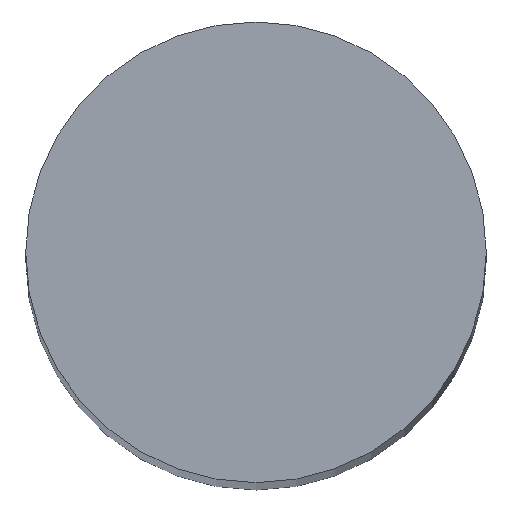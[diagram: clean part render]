
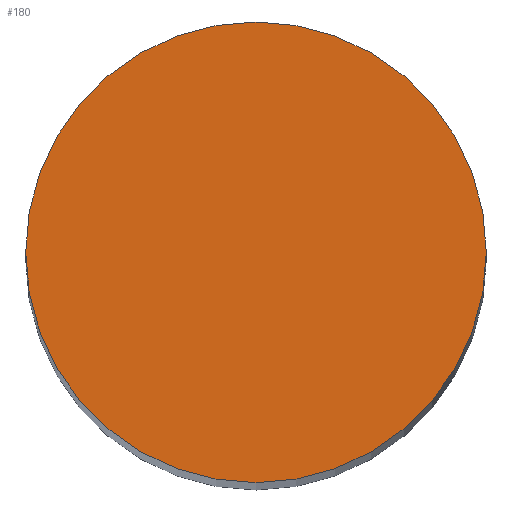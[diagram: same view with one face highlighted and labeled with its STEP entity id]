
A CAD part, top view. The second image highlights one B-rep face of the part: STEP entity #180.
In plain terms, the highlighted planar face has unit normal (0, 0, 1).
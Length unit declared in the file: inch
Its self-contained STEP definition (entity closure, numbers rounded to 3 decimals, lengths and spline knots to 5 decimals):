
#133=CARTESIAN_POINT('',(0.0,-0.1181,2.2441));
#134=VERTEX_POINT('',#133);
#142=CARTESIAN_POINT('',(0.0,0.1181,2.2441));
#143=VERTEX_POINT('',#142);
#150=CARTESIAN_POINT('',(0.0,0.0,2.2441));
#151=DIRECTION('',(0.0,-0.0,-1.0));
#152=DIRECTION('',(0.0,1.0,-0.0));
#153=AXIS2_PLACEMENT_3D('',#150,#151,#152);
#154=CIRCLE('',#153,0.1181);
#155=EDGE_CURVE('no 1299',#143,#134,#154,.T.);
#165=CARTESIAN_POINT('',(0.0,0.0,2.2441));
#166=DIRECTION('',(0.0,-0.0,-1.0));
#167=DIRECTION('',(0.0,1.0,-0.0));
#168=AXIS2_PLACEMENT_3D('',#165,#166,#167);
#169=CIRCLE('',#168,0.1181);
#170=EDGE_CURVE('no 1303',#134,#143,#169,.T.);
#171=ORIENTED_EDGE('',*,*,#170,.F.);
#172=ORIENTED_EDGE('',*,*,#155,.F.);
#173=EDGE_LOOP('',(#171,#172));
#174=FACE_OUTER_BOUND('',#173,.T.);
#175=CARTESIAN_POINT('',(0.1181,0.0,2.2441));
#176=DIRECTION('',(0.0,0.0,1.0));
#177=DIRECTION('',(0.0,-1.0,0.0));
#178=AXIS2_PLACEMENT_3D('',#175,#176,#177);
#179=PLANE('',#178);
#180=ADVANCED_FACE('no 1393',(#174),#179,.T.);
